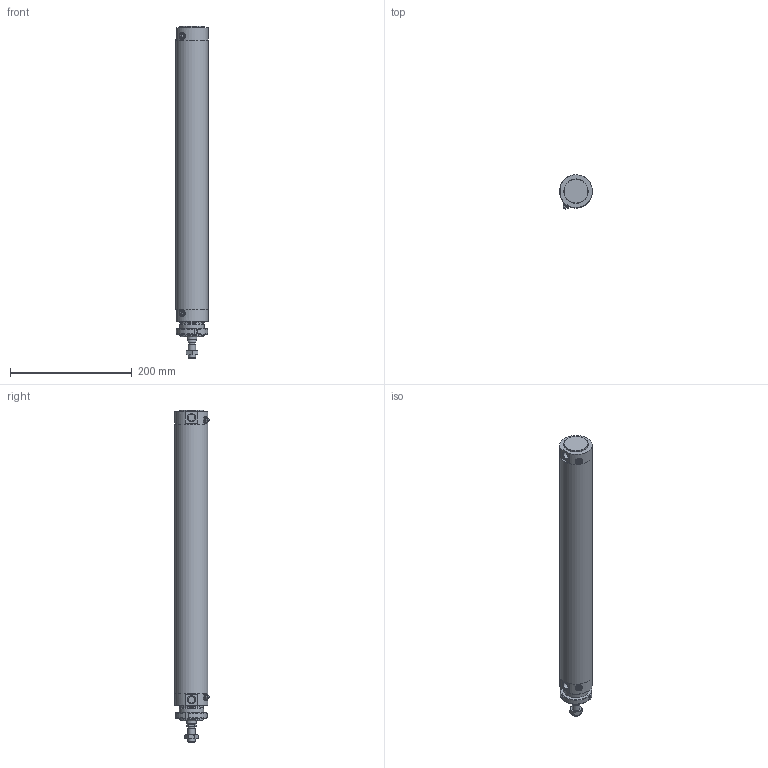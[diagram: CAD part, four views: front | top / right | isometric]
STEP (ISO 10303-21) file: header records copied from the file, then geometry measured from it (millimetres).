
FILE_DESCRIPTION(/* description */ (''),/* implementation_level */ '2;1');
FILE_NAME(/* name */ 'I:\Area Tecnica\Documenti\A-Manieri\_Inventor\12X\12X#D_###_####_#_#\12XBD_050_0400_#_#.stp',/* time_stamp */ '2015-05-04T15:13:12+02:00',/* author */ ('maniean1'),/* organization */ ('Pneumax S.p.A.'),/* preprocessor_version */ 'ST-DEVELOPER v15.2',/* originating_system */ 'Autodesk Inventor 2014',/* authorisation */ '');
FILE_SCHEMA (('AUTOMOTIVE_DESIGN { 1 0 10303 214 3 1 1 }'));
Length unit declared in the file: millimetre
Products named in the file (7): C1250_619-0400; 12X50_606; S12X50_0400; 12X_50_11; 12X50_612; G12X_050_05; 12XBD_050_0400_#_#
Bounding box: 54 x 55.88 x 545 mm (x, y, z)
Volume: 447295.2 mm3; surface area: 206645.1 mm2
Topology: 6 solids, 6 shells, 99 faces, 217 edges, 140 vertices
Faces by surface type: plane 53, cylinder 25, cone 19, torus 2
Full cylindrical faces by diameter (mm): 5 x2, 10.2 x1, 11 x2, 11.4 x2, 12 x2, 14 x1, 15.6 x1, 16 x1, 38.2 x1, 40 x4, 50 x2, 54 x3
Entity records: 2667 total; most frequent: CARTESIAN_POINT 540, DIRECTION 444, ORIENTED_EDGE 348, AXIS2_PLACEMENT_3D 188, EDGE_CURVE 174, EDGE_LOOP 152, VERTEX_POINT 132, ADVANCED_FACE 99
